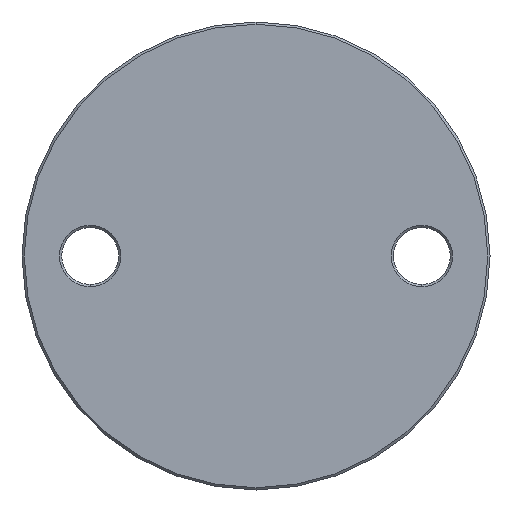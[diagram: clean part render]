
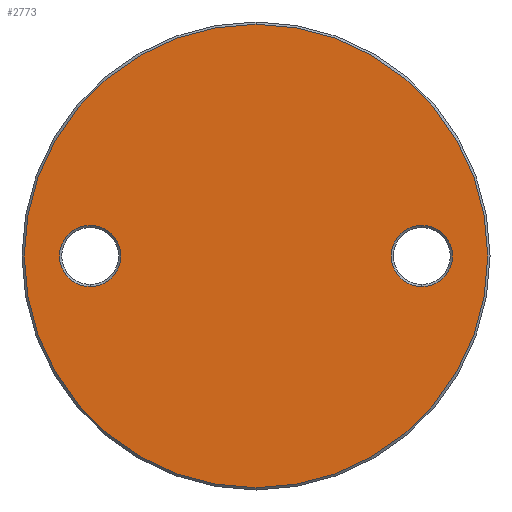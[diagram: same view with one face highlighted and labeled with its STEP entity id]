
A CAD part, front view. The second image highlights one B-rep face of the part: STEP entity #2773.
In plain terms, the highlighted planar face has unit normal (0, -1, 0).
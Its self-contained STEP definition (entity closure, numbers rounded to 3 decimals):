
#83 = DIRECTION ( 'NONE',  ( 0., -1., 0. ) ) ;
#142 = ORIENTED_EDGE ( 'NONE', *, *, #3957, .T. ) ;
#230 = ORIENTED_EDGE ( 'NONE', *, *, #4075, .T. ) ;
#255 = DIRECTION ( 'NONE',  ( 0., 1., 0. ) ) ;
#266 = ORIENTED_EDGE ( 'NONE', *, *, #3765, .T. ) ;
#348 = PLANE ( 'NONE',  #1461 ) ;
#432 = ORIENTED_EDGE ( 'NONE', *, *, #4134, .T. ) ;
#501 = CARTESIAN_POINT ( 'NONE',  ( 36.5, -3., 0. ) ) ;
#554 = VERTEX_POINT ( 'NONE', #3265 ) ;
#658 = CARTESIAN_POINT ( 'NONE',  ( 0., -3., 51.5 ) ) ;
#729 = EDGE_CURVE ( 'NONE', #1040, #3472, #2453, .T. ) ;
#761 = EDGE_LOOP ( 'NONE', ( #266, #142 ) ) ;
#825 = VERTEX_POINT ( 'NONE', #979 ) ;
#852 = DIRECTION ( 'NONE',  ( 0., -1., 0. ) ) ;
#942 = CIRCLE ( 'NONE', #1591, 6.75 ) ;
#979 = CARTESIAN_POINT ( 'NONE',  ( 36.5, -3., -6.75 ) ) ;
#983 = CARTESIAN_POINT ( 'NONE',  ( -36.5, -3., 6.75 ) ) ;
#1040 = VERTEX_POINT ( 'NONE', #1857 ) ;
#1101 = EDGE_CURVE ( 'NONE', #3472, #1040, #2461, .T. ) ;
#1164 = FACE_OUTER_BOUND ( 'NONE', #3842, .T. ) ;
#1189 = DIRECTION ( 'NONE',  ( 0., 0., -1. ) ) ;
#1273 = DIRECTION ( 'NONE',  ( 0., 0., -1. ) ) ;
#1386 = EDGE_LOOP ( 'NONE', ( #230, #432 ) ) ;
#1404 = AXIS2_PLACEMENT_3D ( 'NONE', #501, #3190, #1189 ) ;
#1461 = AXIS2_PLACEMENT_3D ( 'NONE', #658, #83, #1764 ) ;
#1465 = VERTEX_POINT ( 'NONE', #983 ) ;
#1591 = AXIS2_PLACEMENT_3D ( 'NONE', #2084, #3396, #3051 ) ;
#1633 = CIRCLE ( 'NONE', #1404, 6.75 ) ;
#1659 = VERTEX_POINT ( 'NONE', #4188 ) ;
#1762 = AXIS2_PLACEMENT_3D ( 'NONE', #3285, #3640, #2651 ) ;
#1764 = DIRECTION ( 'NONE',  ( 0., 0., -1. ) ) ;
#1857 = CARTESIAN_POINT ( 'NONE',  ( 0., -3., -51. ) ) ;
#2084 = CARTESIAN_POINT ( 'NONE',  ( 36.5, -3., 0. ) ) ;
#2116 = CIRCLE ( 'NONE', #4278, 6.75 ) ;
#2330 = FACE_BOUND ( 'NONE', #1386, .T. ) ;
#2453 = CIRCLE ( 'NONE', #1762, 51. ) ;
#2461 = CIRCLE ( 'NONE', #4169, 51. ) ;
#2624 = DIRECTION ( 'NONE',  ( 0., 1., 0. ) ) ;
#2651 = DIRECTION ( 'NONE',  ( 0., 0., -1. ) ) ;
#2669 = DIRECTION ( 'NONE',  ( 0., 0., -1. ) ) ;
#2773 = ADVANCED_FACE ( 'NONE', ( #3019, #2330, #1164 ), #348, .T. ) ;
#2945 = ORIENTED_EDGE ( 'NONE', *, *, #1101, .T. ) ;
#2982 = AXIS2_PLACEMENT_3D ( 'NONE', #4025, #2624, #2669 ) ;
#3019 = FACE_BOUND ( 'NONE', #761, .T. ) ;
#3051 = DIRECTION ( 'NONE',  ( 0., 0., -1. ) ) ;
#3124 = CIRCLE ( 'NONE', #2982, 6.75 ) ;
#3190 = DIRECTION ( 'NONE',  ( 0., 1., 0. ) ) ;
#3265 = CARTESIAN_POINT ( 'NONE',  ( 36.5, -3., 6.75 ) ) ;
#3267 = ORIENTED_EDGE ( 'NONE', *, *, #729, .T. ) ;
#3285 = CARTESIAN_POINT ( 'NONE',  ( 0., -3., 0. ) ) ;
#3307 = CARTESIAN_POINT ( 'NONE',  ( -36.5, -3., 0. ) ) ;
#3396 = DIRECTION ( 'NONE',  ( 0., 1., 0. ) ) ;
#3472 = VERTEX_POINT ( 'NONE', #3539 ) ;
#3539 = CARTESIAN_POINT ( 'NONE',  ( 0., -3., 51. ) ) ;
#3580 = CARTESIAN_POINT ( 'NONE',  ( 0., -3., 0. ) ) ;
#3640 = DIRECTION ( 'NONE',  ( 0., -1., 0. ) ) ;
#3765 = EDGE_CURVE ( 'NONE', #825, #554, #942, .T. ) ;
#3842 = EDGE_LOOP ( 'NONE', ( #2945, #3267 ) ) ;
#3938 = DIRECTION ( 'NONE',  ( 0., 0., -1. ) ) ;
#3957 = EDGE_CURVE ( 'NONE', #554, #825, #1633, .T. ) ;
#4025 = CARTESIAN_POINT ( 'NONE',  ( -36.5, -3., 0. ) ) ;
#4075 = EDGE_CURVE ( 'NONE', #1659, #1465, #3124, .T. ) ;
#4134 = EDGE_CURVE ( 'NONE', #1465, #1659, #2116, .T. ) ;
#4169 = AXIS2_PLACEMENT_3D ( 'NONE', #3580, #852, #3938 ) ;
#4188 = CARTESIAN_POINT ( 'NONE',  ( -36.5, -3., -6.75 ) ) ;
#4278 = AXIS2_PLACEMENT_3D ( 'NONE', #3307, #255, #1273 ) ;
